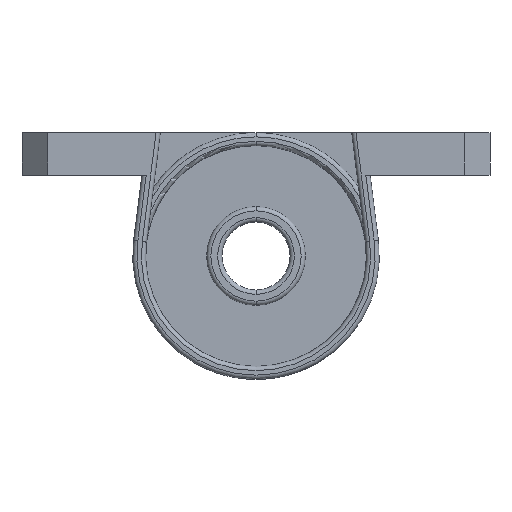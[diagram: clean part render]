
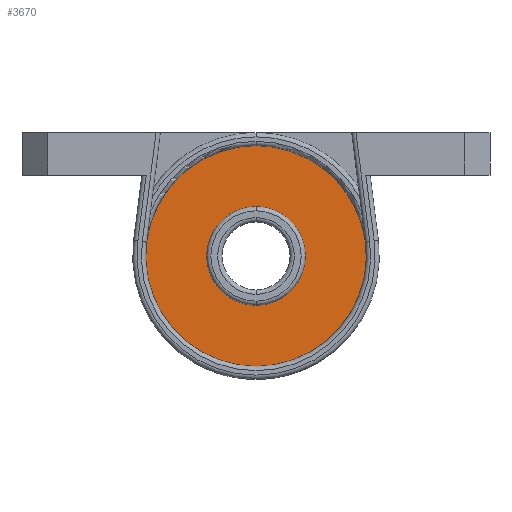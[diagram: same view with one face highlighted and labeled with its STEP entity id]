
A CAD part, front view. The second image highlights one B-rep face of the part: STEP entity #3670.
In plain terms, the highlighted planar face has unit normal (0, -1, 0).
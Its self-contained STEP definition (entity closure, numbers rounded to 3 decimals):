
#478 = FACE_OUTER_BOUND ( 'NONE', #8029, .T. ) ;
#817 = AXIS2_PLACEMENT_3D ( 'NONE', #9085, #4462, #9865 ) ;
#932 = VERTEX_POINT ( 'NONE', #5649 ) ;
#950 = AXIS2_PLACEMENT_3D ( 'NONE', #3025, #8386, #3801 ) ;
#1491 = DIRECTION ( 'NONE',  ( 0., -1., 0. ) ) ;
#1554 = DIRECTION ( 'NONE',  ( 0., -1., 0. ) ) ;
#1598 = AXIS2_PLACEMENT_3D ( 'NONE', #3861, #9236, #4605 ) ;
#2817 = ORIENTED_EDGE ( 'NONE', *, *, #5825, .F. ) ;
#3025 = CARTESIAN_POINT ( 'NONE',  ( 0., -2.5, 3.5 ) ) ;
#3385 = CIRCLE ( 'NONE', #8535, 12.97 ) ;
#3670 = ADVANCED_FACE ( 'NONE', ( #478, #4551 ), #3711, .F. ) ;
#3698 = ORIENTED_EDGE ( 'NONE', *, *, #4631, .F. ) ;
#3711 = PLANE ( 'NONE',  #817 ) ;
#3801 = DIRECTION ( 'NONE',  ( 0., 0., 1. ) ) ;
#3861 = CARTESIAN_POINT ( 'NONE',  ( 0., -2.5, 3.5 ) ) ;
#3869 = CARTESIAN_POINT ( 'NONE',  ( 0., -2.5, 16.47 ) ) ;
#4099 = EDGE_CURVE ( 'NONE', #5243, #7297, #3385, .T. ) ;
#4462 = DIRECTION ( 'NONE',  ( 0., 1., 0. ) ) ;
#4551 = FACE_BOUND ( 'NONE', #5874, .T. ) ;
#4605 = DIRECTION ( 'NONE',  ( 0., 0., 1. ) ) ;
#4631 = EDGE_CURVE ( 'NONE', #6187, #932, #7562, .T. ) ;
#5243 = VERTEX_POINT ( 'NONE', #3869 ) ;
#5649 = CARTESIAN_POINT ( 'NONE',  ( 0., -2.5, 9.301 ) ) ;
#5772 = CIRCLE ( 'NONE', #1598, 5.801 ) ;
#5825 = EDGE_CURVE ( 'NONE', #932, #6187, #5772, .T. ) ;
#5874 = EDGE_LOOP ( 'NONE', ( #3698, #2817 ) ) ;
#6089 = CARTESIAN_POINT ( 'NONE',  ( 0., -2.5, 3.5 ) ) ;
#6150 = CARTESIAN_POINT ( 'NONE',  ( 0., -2.5, 3.5 ) ) ;
#6187 = VERTEX_POINT ( 'NONE', #6368 ) ;
#6328 = EDGE_CURVE ( 'NONE', #7297, #5243, #7924, .T. ) ;
#6368 = CARTESIAN_POINT ( 'NONE',  ( 0., -2.5, -2.301 ) ) ;
#6864 = DIRECTION ( 'NONE',  ( 0., 0., 1. ) ) ;
#6924 = DIRECTION ( 'NONE',  ( 0., 0., 1. ) ) ;
#7118 = ORIENTED_EDGE ( 'NONE', *, *, #4099, .T. ) ;
#7297 = VERTEX_POINT ( 'NONE', #8214 ) ;
#7562 = CIRCLE ( 'NONE', #950, 5.801 ) ;
#7924 = CIRCLE ( 'NONE', #9338, 12.97 ) ;
#8029 = EDGE_LOOP ( 'NONE', ( #9086, #7118 ) ) ;
#8214 = CARTESIAN_POINT ( 'NONE',  ( 0., -2.5, -9.47 ) ) ;
#8386 = DIRECTION ( 'NONE',  ( 0., -1., 0. ) ) ;
#8535 = AXIS2_PLACEMENT_3D ( 'NONE', #6150, #1554, #6924 ) ;
#9085 = CARTESIAN_POINT ( 'NONE',  ( 0., -2.5, 3.5 ) ) ;
#9086 = ORIENTED_EDGE ( 'NONE', *, *, #6328, .T. ) ;
#9236 = DIRECTION ( 'NONE',  ( 0., -1., 0. ) ) ;
#9338 = AXIS2_PLACEMENT_3D ( 'NONE', #6089, #1491, #6864 ) ;
#9865 = DIRECTION ( 'NONE',  ( 0., 0., 1. ) ) ;
